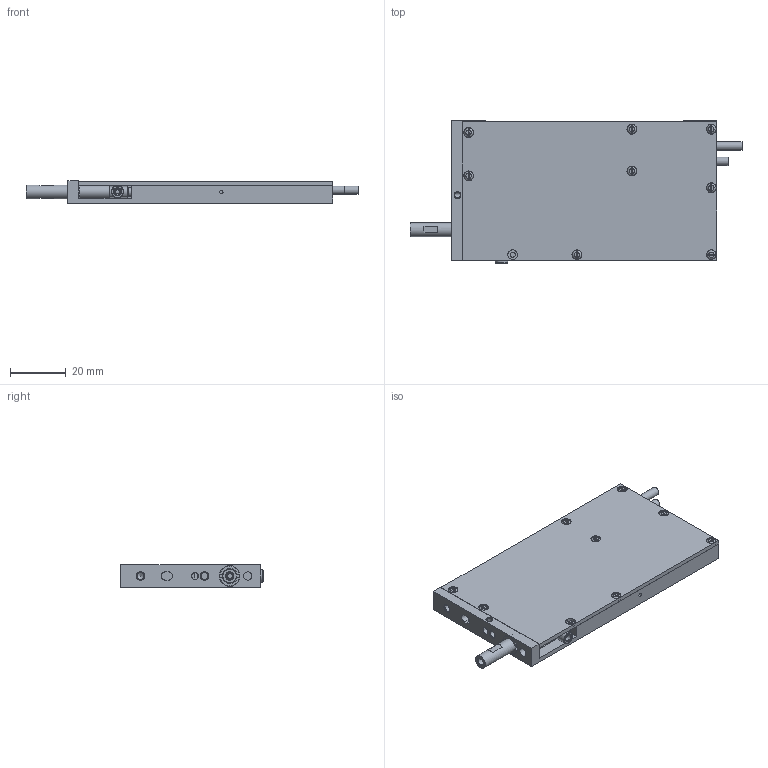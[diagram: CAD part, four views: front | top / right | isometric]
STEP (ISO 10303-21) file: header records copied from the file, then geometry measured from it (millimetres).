
FILE_DESCRIPTION((''),'2;1');
FILE_NAME('D:\SMAC-CAD\LCA\LCA8\LCA8-010\ASSY\LCA8-XXX-3D_D.stp','2013-09-24T07:55:51',('ToanVu'),(''),'Autodesk Inventor 2008','Autodesk Inventor 2008','');
FILE_SCHEMA(('AUTOMOTIVE_DESIGN { 1 0 10303 214 1 1 1 1 }'));
Length unit declared in the file: millimetre
Products named in the file (10): LCA8-XXX-3D_D; 900822-20-3D_D; 11619-10-2_C; 900822-PIS-3D; 21562-05_A; 23632-10_B; 18567-01_B; 18564-02_A; LCA8CAB-ADT; IS 6101 M1.6 x 2
Assembly tree (16 placements, depth 3):
  LCA8-XXX-3D_D
    900822-20-3D_D
      11619-10-2_C
    900822-PIS-3D
      21562-05_A
    23632-10_B
    18567-01_B
    18564-02_A
    LCA8CAB-ADT
    IS 6101 M1.6 x 2  x8
Bounding box: 119.03 x 51 x 8 mm (x, y, z)
Volume: 14868 mm3; surface area: 25373.1 mm2
Topology: 14 solids, 14 shells, 460 faces, 1111 edges, 725 vertices
Faces by surface type: plane 246, cylinder 94, bspline 75, cone 37, torus 8
Full cylindrical faces by diameter (mm): 1.41 x8, 1.6 x8, 2.6 x1, 2.9 x1, 3 x5, 4 x1, 4.5 x1, 5 x2, 6 x12, 6.5 x1, 7 x1, 7.4 x2
Entity records: 11627 total; most frequent: CARTESIAN_POINT 3027, DIRECTION 1703, ORIENTED_EDGE 1568, EDGE_CURVE 784, AXIS2_PLACEMENT_3D 615, VERTEX_POINT 575, EDGE_LOOP 561, VECTOR 473
